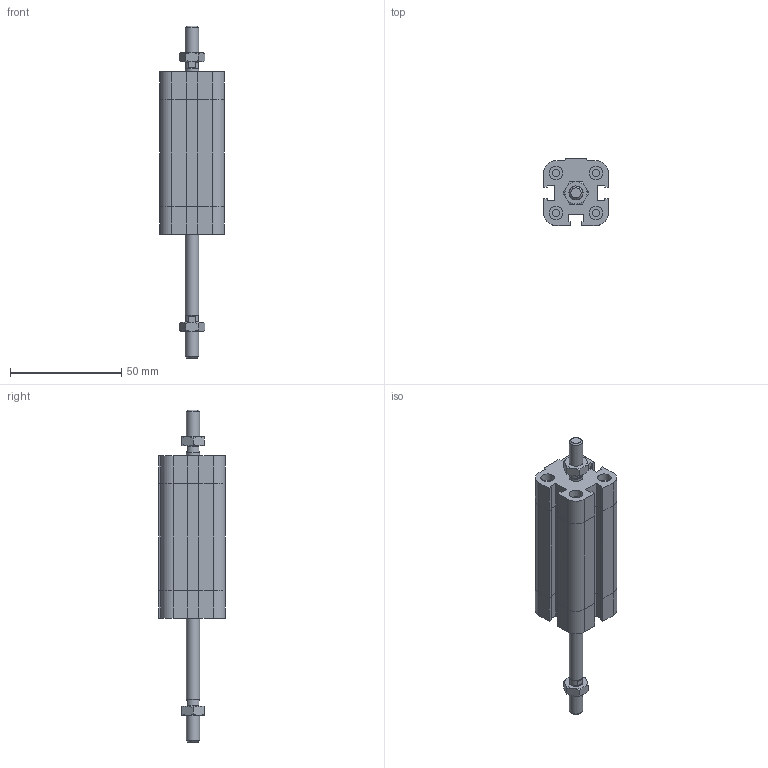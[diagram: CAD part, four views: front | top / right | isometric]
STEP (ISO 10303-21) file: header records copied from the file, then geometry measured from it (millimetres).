
FILE_DESCRIPTION((''),'2;1');
FILE_NAME('I:\Area Tecnica\Disegni\VARIE-3D\Componenti\EUROPE\15##_###_####_04_#\1581_12_0035_04_1.iam.stp','2009-04-20T14:49:18',(''),(''),'Autodesk Inventor 2009','Autodesk Inventor 2009','');
FILE_SCHEMA(('AUTOMOTIVE_DESIGN { 1 0 10303 214 1 1 1 1 }'));
Length unit declared in the file: millimetre
Products named in the file (4): 1581_12_0035_04_1; 1581_12_0035_03_1_C; 1561_12_0035_04_1_S; DBM6
Assembly tree (4 placements, depth 2):
  1581_12_0035_04_1
    1581_12_0035_03_1_C
    1561_12_0035_04_1_S
    DBM6  x2
Bounding box: 29 x 30 x 149 mm (x, y, z)
Volume: 53975.3 mm3; surface area: 18982.5 mm2
Topology: 4 solids, 4 shells, 224 faces, 491 edges, 293 vertices
Faces by surface type: plane 131, cone 35, bspline 33, cylinder 25
Full cylindrical faces by diameter (mm): 3.242 x4, 5 x1, 5.8 x2, 6 x6
Entity records: 5503 total; most frequent: CARTESIAN_POINT 1232, DIRECTION 814, ORIENTED_EDGE 784, EDGE_CURVE 392, AXIS2_PLACEMENT_3D 276, VECTOR 262, LINE 262, EDGE_LOOP 258
